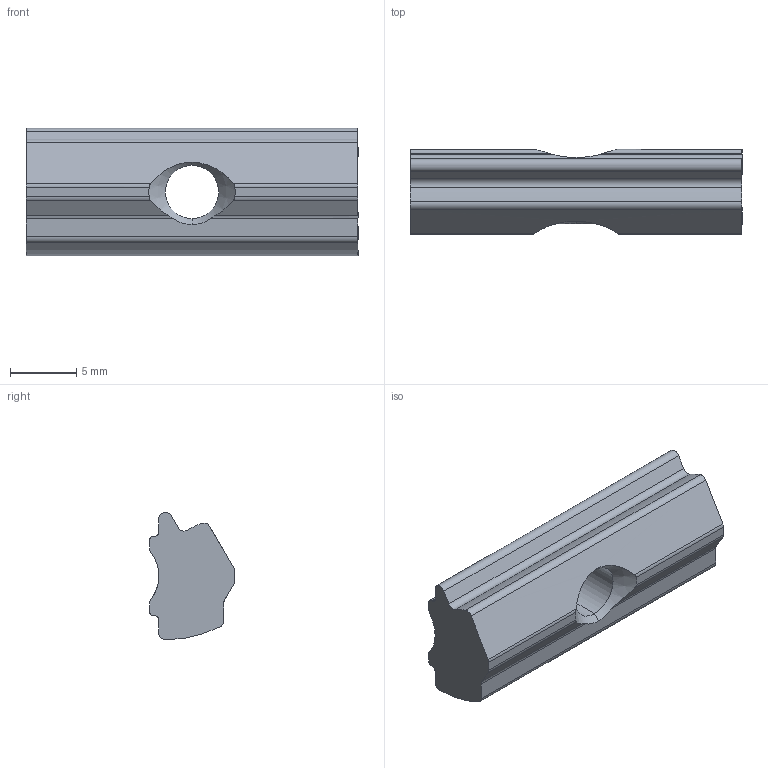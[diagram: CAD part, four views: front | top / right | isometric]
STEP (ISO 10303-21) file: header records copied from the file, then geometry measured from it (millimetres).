
FILE_DESCRIPTION((''),'2;1');
FILE_NAME('E:\端から修正\NAMT-06-4.stp','2013-11-07T16:14:43',('AMS8'),(''),'Autodesk Inventor 2008','Autodesk Inventor 2008','');
FILE_SCHEMA(('AUTOMOTIVE_DESIGN { 1 0 10303 214 1 1 1 1 }'));
Length unit declared in the file: millimetre
Products named in the file (4): NAST-06-4; DEFAULT; DEFAULTA
Assembly tree (3 placements, depth 3):
  NAST-06-4
    DEFAULT
      DEFAULT
      DEFAULTA
Bounding box: 25 x 6.4 x 9.6 mm (x, y, z)
Volume: 1021.3 mm3; surface area: 819.8 mm2
Topology: 1 solids, 1 shells, 50 faces, 155 edges, 105 vertices
Faces by surface type: cylinder 27, plane 19, cone 4
Entity records: 1959 total; most frequent: CARTESIAN_POINT 491, ORIENTED_EDGE 310, DIRECTION 282, EDGE_CURVE 155, AXIS2_PLACEMENT_3D 105, VERTEX_POINT 105, VECTOR 72, LINE 72
